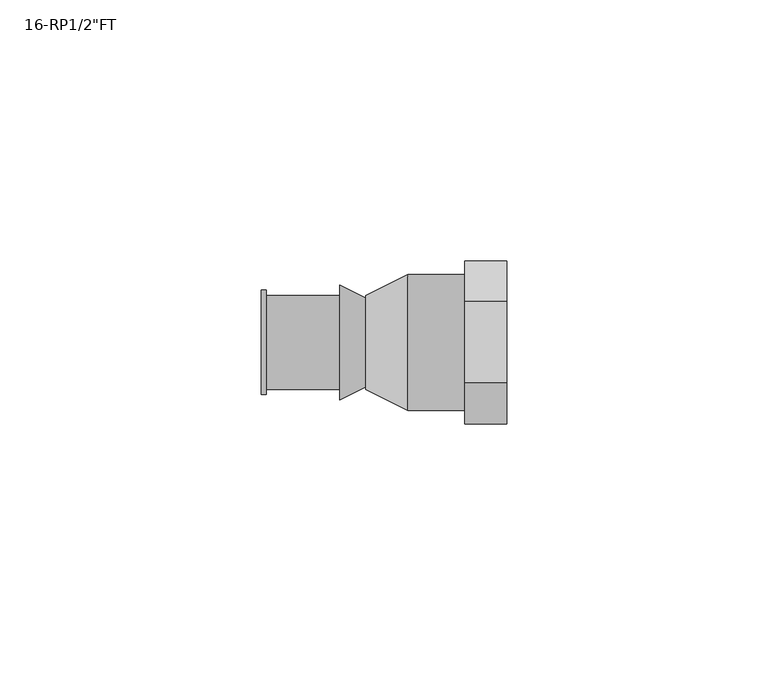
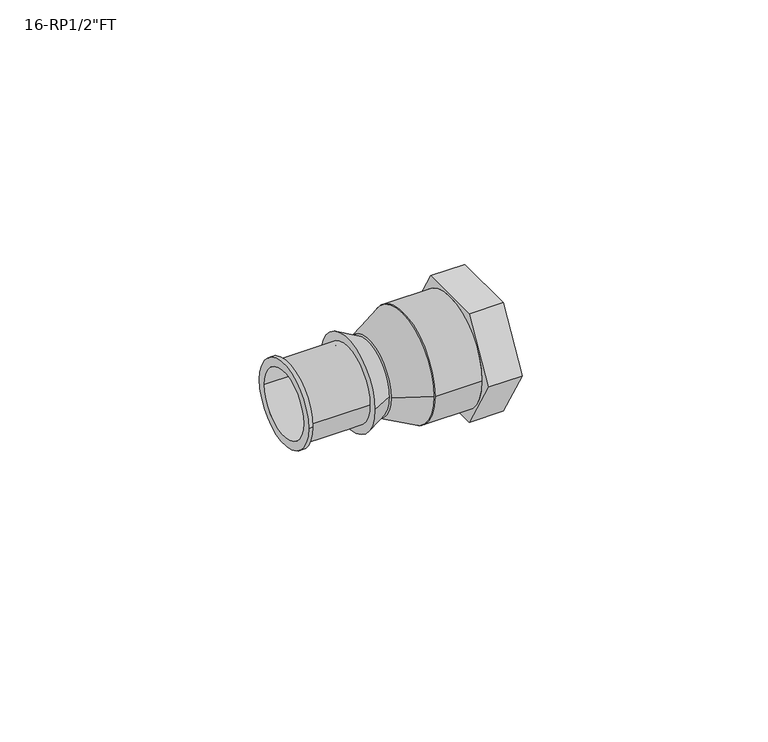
"""IFC4 building model written with IfcOpenShell, lengths in millimetres: pipe fitting geometry."""

import ifcopenshell
import ifcopenshell.guid

model = None  # the IFC model being written
_history = None  # IfcOwnerHistory: only IFC2X3 demands one
_inside = {}  # id of a spatial element -> (the spatial element, [elements in it])
_under = {}  # id of a project, library or spatial element -> (it, [spatial elements below it])
_declared = {}  # id of a project -> (the project, [libraries it declares])
_typed = {}  # id of a type object -> (the type object, [elements of that type])
_made_of = {}  # id of a material, layer set ... -> (it, [elements and type objects made of it])


def new_model(schema):
    """Start an empty IFC model of exactly this schema.

    Asked for "IFC4X3", IfcOpenShell would pick the latest addendum, in which some entities
    have other attributes; the version numbers below select the first issue.
    IFC2X3 requires an IfcOwnerHistory on every rooted entity: one is made here for all.
    """
    global model, _history
    if schema == "IFC4X3":
        model = ifcopenshell.file(schema_version=(4, 3, 0, 0))
    else:
        model = ifcopenshell.file(schema=schema)
    _inside.clear()
    _under.clear()
    _declared.clear()
    _typed.clear()
    _made_of.clear()
    _history = None
    if model.schema == "IFC2X3":
        org = make("IfcOrganization", Name="unknown")
        user = make(
            "IfcPersonAndOrganization",
            ThePerson=make("IfcPerson", FamilyName="unknown"),
            TheOrganization=org,
        )
        app = make(
            "IfcApplication",
            ApplicationDeveloper=org,
            Version="unknown",
            ApplicationFullName="unknown",
            ApplicationIdentifier="unknown",
        )
        _history = make(
            "IfcOwnerHistory",
            OwningUser=user,
            OwningApplication=app,
            ChangeAction="ADDED",
            CreationDate=0,
        )
    return model


def make(cls, **values):
    """One entity of the class cls with the attributes given. An attribute that is None is left unset."""
    return model.create_entity(
        cls, **{name: value for name, value in values.items() if value is not None}
    )


def rooted(cls, **values):
    """An entity with a GlobalId (a new one), such as an element, a storey or a relation."""
    return make(cls, GlobalId=ifcopenshell.guid.new(), OwnerHistory=_history, **values)


def si_unit(unit_type, name, prefix=None):
    """IfcSIUnit, for example si_unit("LENGTHUNIT", "METRE", prefix="MILLI")."""
    return make("IfcSIUnit", UnitType=unit_type, Prefix=prefix, Name=name)


def assignment(units):
    """IfcUnitAssignment: the units of a project."""
    return None if units is None else make("IfcUnitAssignment", Units=units)


def point(xyz):
    """IfcCartesianPoint."""
    return None if xyz is None else make("IfcCartesianPoint", Coordinates=xyz)


def direction(xyz):
    """IfcDirection."""
    return None if xyz is None else make("IfcDirection", DirectionRatios=xyz)


def frame(location, z_axis=None, x_axis=None):
    """IfcAxis2Placement3D, a coordinate frame: its origin and axes. An axis left out is left unset."""
    return make(
        "IfcAxis2Placement3D",
        Location=point(location),
        Axis=direction(z_axis),
        RefDirection=direction(x_axis),
    )


def origin():
    """The frame at (0, 0, 0) with its axes left unset."""
    return frame((0.0, 0.0, 0.0))


def place(relative_to, where):
    """IfcLocalPlacement: puts the frame where relative to a parent placement (None: the world)."""
    return make(
        "IfcLocalPlacement", PlacementRelTo=relative_to, RelativePlacement=where
    )


def context(
    kind, dimensions, precision=None, world=None, true_north=None, identifier=None
):
    """IfcGeometricRepresentationContext, for example the 3D "Model" context."""
    return make(
        "IfcGeometricRepresentationContext",
        ContextIdentifier=identifier,
        ContextType=kind,
        CoordinateSpaceDimension=dimensions,
        Precision=precision,
        WorldCoordinateSystem=world,
        TrueNorth=true_north,
    )


def project(units=None, contexts=None):
    """IfcProject with its units and contexts."""
    return rooted(
        "IfcProject",
        Name="project",
        RepresentationContexts=contexts,
        UnitsInContext=assignment(units),
    )


def spatial(cls, under=None, at=None, **own):
    """A site, building, storey or space (cls), placed at a placement, below another one or the project."""
    s = rooted(cls, ObjectPlacement=at, **own)
    if under is not None:
        _under.setdefault(under.id(), (under, []))[1].append(s)
    return s


def polyline(points):
    """IfcPolyline through the points."""
    return make("IfcPolyline", Points=[point(p) for p in points])


def circle_curve(where, radius):
    """IfcCircle in the frame where."""
    return make("IfcCircle", Position=where, Radius=radius)


def shape(context_of_items, identifier, shape_type, items):
    """IfcShapeRepresentation: the items that make up one representation, for example the "Body"."""
    return make(
        "IfcShapeRepresentation",
        ContextOfItems=context_of_items,
        RepresentationIdentifier=identifier,
        RepresentationType=shape_type,
        Items=items,
    )


def source(mapping_origin, context_of_items, identifier, shape_type, items):
    """IfcRepresentationMap: a shape defined once, which mapped items show again and again."""
    return make(
        "IfcRepresentationMap",
        MappingOrigin=mapping_origin,
        MappedRepresentation=shape(context_of_items, identifier, shape_type, items),
    )


def transform(
    local_origin,
    x_axis=None,
    y_axis=None,
    z_axis=None,
    scale=None,
    scale2=None,
    scale3=None,
    uniform=True,
):
    """IfcCartesianTransformationOperator3D, or its non-uniform kind. x_axis, y_axis, z_axis: its Axis1, 2, 3."""
    if uniform:
        return make(
            "IfcCartesianTransformationOperator3D",
            Axis1=direction(x_axis),
            Axis2=direction(y_axis),
            LocalOrigin=point(local_origin),
            Scale=scale,
            Axis3=direction(z_axis),
        )
    return make(
        "IfcCartesianTransformationOperator3DnonUniform",
        Axis1=direction(x_axis),
        Axis2=direction(y_axis),
        LocalOrigin=point(local_origin),
        Scale=scale,
        Axis3=direction(z_axis),
        Scale2=scale2,
        Scale3=scale3,
    )


def mapped(mapping_source, mapping_target):
    """IfcMappedItem: shows the shape of a source again, moved by a transform."""
    return make(
        "IfcMappedItem", MappingSource=mapping_source, MappingTarget=mapping_target
    )


def made_of(thing, what):
    """Note that an element or type object is made of a material, layer set ...; save() writes the relation."""
    if what is not None:
        _made_of.setdefault(what.id(), (what, []))[1].append(thing)
    return thing


def element(
    cls,
    number,
    at=None,
    inside=None,
    cuts=None,
    type_object=None,
    material=None,
    context=None,
    identifier="Body",
    shape_type=None,
    held_by="IfcProductDefinitionShape",
    body=None,
    shapes=None,
    **own,
):
    """One element of the class cls, such as IfcWall. Its Tag is "e" and its number.

    at: its placement. inside: the storey or other place that contains it. cuts: it is an
    opening in that element (IfcRelVoidsElement). A single representation is given by context,
    identifier, shape_type and body (its items); several are given by shapes. held_by: the class
    of the entity that holds the representations. save() writes the other relations.
    """
    e = rooted(cls, Tag="e%d" % number, ObjectPlacement=at, **own)
    if body is not None:
        shapes = [shape(context, identifier, shape_type, body)]
    if shapes is not None:
        e.Representation = make(held_by, Representations=shapes)
    if inside is not None:
        _inside.setdefault(inside.id(), (inside, []))[1].append(e)
    if cuts is not None:
        rooted(
            "IfcRelVoidsElement", RelatingBuildingElement=cuts, RelatedOpeningElement=e
        )
    if type_object is not None:
        _typed.setdefault(type_object.id(), (type_object, []))[1].append(e)
    return made_of(e, material)


def aggregate(whole, parts):
    """IfcRelAggregates: a whole, such as a stair, and the parts it consists of."""
    return rooted("IfcRelAggregates", RelatingObject=whole, RelatedObjects=parts)


def save(model, path):
    """Write the relations noted so far, then the file.

    IfcRelAggregates (storeys below a building ...), IfcRelContainedInSpatialStructure (elements
    in a storey), IfcRelDefinesByType, IfcRelAssociatesMaterial and IfcRelDeclares: one each for
    every whole, place, type object, material and project.
    """
    for whole, parts in _under.values():
        aggregate(whole, parts)
    for where, things in _inside.values():
        rooted(
            "IfcRelContainedInSpatialStructure",
            RelatedElements=things,
            RelatingStructure=where,
        )
    for kind, things in _typed.values():
        rooted("IfcRelDefinesByType", RelatedObjects=things, RelatingType=kind)
    for what, things in _made_of.values():
        rooted("IfcRelAssociatesMaterial", RelatedObjects=things, RelatingMaterial=what)
    for by, libraries in _declared.values():
        rooted("IfcRelDeclares", RelatingContext=by, RelatedDefinitions=libraries)
    model.write(path)


def plane_surface(at):
    """IfcPlane: the flat surface through the origin of the frame at, square to its z axis."""
    return make("IfcPlane", Position=at)


def cylinder_surface(at, radius):
    """IfcCylindricalSurface: all points at the distance radius from the z axis of the frame at."""
    return make("IfcCylindricalSurface", Position=at, Radius=radius)


def revolved_surface(curve, axis_point, axis_direction):
    """IfcSurfaceOfRevolution: the curve turned about the line through axis_point along axis_direction."""
    return make(
        "IfcSurfaceOfRevolution",
        SweptCurve=make("IfcArbitraryOpenProfileDef", ProfileType="CURVE", Curve=curve),
        AxisPosition=make("IfcAxis1Placement", Location=point(axis_point), Axis=direction(axis_direction)),
    )


def advanced_brep(points, edges, surfaces, faces):
    """IfcAdvancedBrep: a solid bounded by faces that lie on surfaces and meet in shared edges.

    An edge is (start, end): straight between two places in points (the first is 0);
    or (start, end, curve); or (start, end, curve, False) where it runs against its curve.
    A face is (place in surfaces, loops), or (place, loops, False) where it looks against
    its surface's normal. A loop lists edges by number (the first is 1), with a minus sign
    where the edge is run from its end to its start. The first loop is the outer one.
    """
    corners = [point(p) for p in points]
    vertices = [make("IfcVertexPoint", VertexGeometry=c) for c in corners]
    made = []
    for start, end, *more in edges:
        made.append(
            make(
                "IfcEdgeCurve",
                EdgeStart=vertices[start],
                EdgeEnd=vertices[end],
                EdgeGeometry=more[0] if more else make("IfcPolyline", Points=[corners[start], corners[end]]),
                SameSense=more[1] if len(more) > 1 else True,
            )
        )
    hull = []
    for where, loops, *sense in faces:
        bounds = []
        for j, loop in enumerate(loops):
            ring = [make("IfcOrientedEdge", EdgeElement=made[abs(k) - 1], Orientation=k > 0) for k in loop]
            bounds.append(
                make(
                    "IfcFaceOuterBound" if j == 0 else "IfcFaceBound",
                    Bound=make("IfcEdgeLoop", EdgeList=ring),
                    Orientation=True,
                )
            )
        hull.append(make("IfcAdvancedFace", Bounds=bounds, FaceSurface=surfaces[where], SameSense=sense[0] if sense else True))
    return make("IfcAdvancedBrep", Outer=make("IfcClosedShell", CfsFaces=hull))


def pipe_fitting_16d1dc4d(model_context):
    return source(origin(), model_context, "Body", "AdvancedBrep", [
        advanced_brep(
        [(2.0, -13.0, 0.0), (2.0, 13.0, 0.0), (2.0, -9.0, 0.0), (2.0, 9.0, 0.0), (21.0, -15.5884573, 0.0), (21.0, -7.7942286, -13.5), (21.0, 7.7942286, -13.5), (21.0, 15.5884573, 0.0), (21.0, 7.7942286, 13.5), (21.0, -7.7942286, 13.5), (21.0, -9.0, 0.0), (21.0, 9.0, 0.0), (13.0, -13.0, 0.0), (13.0, 13.0, 0.0), (13.0, -9.0, 0.0), (13.0, 9.0, 0.0), (13.0, -15.5884573, 0.0), (13.0, -7.7942286, 13.5), (13.0, 7.7942286, 13.5), (13.0, 15.5884573, 0.0), (13.0, 7.7942286, -13.5), (13.0, -7.7942286, -13.5)],
        [
            (0, 1, circle_curve(frame((2.0, 0.0, 0.0), z_axis=(-1.0, 0.0, 0.0), x_axis=(0.0, 1.0, 0.0)), 13.0)),
            (1, 0, circle_curve(frame((2.0, 0.0, 0.0), z_axis=(-1.0, 0.0, 0.0), x_axis=(0.0, 1.0, 0.0)), 13.0)),
            (2, 3, circle_curve(frame((2.0, 0.0, 0.0), z_axis=(1.0, 0.0, 0.0), x_axis=(0.0, 1.0, 0.0)), 9.0)),
            (3, 2, circle_curve(frame((2.0, 0.0, 0.0), z_axis=(1.0, 0.0, 0.0), x_axis=(0.0, 1.0, 0.0)), 9.0)),
            (4, 5),
            (5, 6),
            (6, 7),
            (7, 8),
            (8, 9),
            (9, 4),
            (10, 11, circle_curve(frame((21.0, 0.0, 0.0), z_axis=(-1.0, 0.0, 0.0), x_axis=(0.0, 1.0, 0.0)), 9.0)),
            (11, 10, circle_curve(frame((21.0, 0.0, 0.0), z_axis=(-1.0, 0.0, 0.0), x_axis=(0.0, 1.0, 0.0)), 9.0)),
            (0, 12),
            (12, 13, circle_curve(frame((13.0, 0.0, 0.0), z_axis=(-1.0, 0.0, 0.0), x_axis=(0.0, 1.0, 0.0)), 13.0)),
            (13, 1),
            (13, 12, circle_curve(frame((13.0, 0.0, 0.0), z_axis=(-1.0, 0.0, 0.0), x_axis=(0.0, 1.0, 0.0)), 13.0)),
            (2, 14),
            (14, 10),
            (11, 15),
            (15, 3),
            (16, 17),
            (17, 18),
            (18, 19),
            (19, 20),
            (20, 21),
            (21, 16),
            (16, 4),
            (9, 17),
            (8, 18),
            (7, 19),
            (6, 20),
            (5, 21),
        ],
        [
            plane_surface(frame((2.0, 0.0, 0.0), z_axis=(-1.0, 0.0, 0.0), x_axis=(0.0, 0.0, 1.0))),
            plane_surface(frame((21.0, 0.0, 0.0), z_axis=(1.0, 0.0, 0.0), x_axis=(0.0, 0.0, 1.0))),
            cylinder_surface(frame((2.0, 0.0, 0.0), z_axis=(-1.0, 0.0, 0.0), x_axis=(0.0, 1.0, 0.0)), 13.0),
            revolved_surface(polyline([(21.0, 9.0, 0.0), (2.0, 9.0, 0.0)]), (2.0, 0.0, 0.0), (1.0, 0.0, 0.0)),
            plane_surface(frame((13.0, 0.0, 0.0), z_axis=(-1.0, 0.0, 0.0), x_axis=(0.0, 0.0, 1.0))),
            plane_surface(frame((13.0, -15.5884573, 0.0), z_axis=(0.0, -0.866025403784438, 0.5000000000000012), x_axis=(1.0, 0.0, 0.0))),
            plane_surface(frame((13.0, -7.7942286, 13.5), z_axis=(0.0, 0.0, 1.0), x_axis=(1.0, 0.0, 0.0))),
            plane_surface(frame((13.0, 7.7942286, 13.5), z_axis=(0.0, 0.8660254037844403, 0.4999999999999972), x_axis=(1.0, 0.0, 0.0))),
            plane_surface(frame((13.0, 15.5884573, 0.0), z_axis=(0.0, 0.8660254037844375, -0.500000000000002), x_axis=(1.0, 0.0, 0.0))),
            plane_surface(frame((13.0, 7.7942286, -13.5), z_axis=(0.0, 0.0, -1.0), x_axis=(1.0, 0.0, 0.0))),
            plane_surface(frame((13.0, -7.7942286, -13.5), z_axis=(0.0, -0.8660254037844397, -0.4999999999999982), x_axis=(1.0, 0.0, 0.0))),
        ],
        [
            (0, [[1, 2], [3, 4]]),
            (1, [[5, 6, 7, 8, 9, 10], [11, 12]]),
            (2, [[-1, 13, 14, 15]]),
            (2, [[-2, -15, 16, -13]]),
            (3, [[-3, 17, 18, -12, 19, 20]]),
            (3, [[-4, -20, -19, -11, -18, -17]]),
            (4, [[21, 22, 23, 24, 25, 26], [-14, -16]]),
            (5, [[-21, 27, -10, 28]]),
            (6, [[-22, -28, -9, 29]]),
            (7, [[-23, -29, -8, 30]]),
            (8, [[-24, -30, -7, 31]]),
            (9, [[-25, -31, -6, 32]]),
            (10, [[-26, -32, -5, -27]]),
        ],
    ),
        advanced_brep(
        [(2.0, -13.0, 0.0), (2.0, 13.0, 0.0), (-6.0, -9.0, 0.0), (-6.0, 9.0, 0.0)],
        [
            (0, 1, circle_curve(frame((2.0, 0.0, 0.0), z_axis=(1.0, 0.0, 0.0), x_axis=(0.0, -1.0, 0.0)), 13.0)),
            (1, 0, circle_curve(frame((2.0, 0.0, 0.0), z_axis=(1.0, 0.0, 0.0), x_axis=(0.0, 1.0, 0.0)), 13.0)),
            (2, 3, circle_curve(frame((-6.0, 0.0, 0.0), z_axis=(-1.0, 0.0, 0.0), x_axis=(0.0, 1.0, 0.0)), 9.0)),
            (3, 2, circle_curve(frame((-6.0, 0.0, 0.0), z_axis=(-1.0, 0.0, 0.0), x_axis=(0.0, -1.0, 0.0)), 9.0)),
            (3, 1),
            (0, 2),
        ],
        [
            plane_surface(frame((2.0, 0.0, 0.0), z_axis=(1.0, 0.0, 0.0), x_axis=(0.0, 0.0, -1.0))),
            plane_surface(frame((-6.0, 0.0, 0.0), z_axis=(-1.0, 0.0, 0.0), x_axis=(0.0, 0.0, -1.0))),
            revolved_surface(polyline([(-6.0, 9.0, 0.0), (2.0, 13.0, 0.0)]), (-24.0, 0.0, 0.0), (1.0, 0.0, 0.0)),
            revolved_surface(polyline([(-6.0, -9.0, 0.0), (2.0, -13.0, 0.0)]), (-24.0, 0.0, 0.0), (1.0, 0.0, 0.0)),
        ],
        [
            (0, [[1, 2]]),
            (1, [[3, 4]]),
            (2, [[-4, 5, -1, 6]]),
            (3, [[-3, -6, -2, -5]]),
        ],
    ),
        advanced_brep(
        [(-26.0, -10.0, 0.0), (-26.0, 10.0, 0.0), (-26.0, -8.0, 0.0), (-26.0, 8.0, 0.0), (-11.0, -9.0, 0.0), (-11.0, 9.0, 0.0), (-11.0, -8.0, 0.0), (-11.0, 8.0, 0.0), (-25.0, 9.0, 0.0), (-25.0, -9.0, 0.0), (-25.0, -10.0, 0.0), (-25.0, 10.0, 0.0)],
        [
            (0, 1, circle_curve(frame((-26.0, 0.0, 0.0), z_axis=(-1.0, 0.0, 0.0), x_axis=(0.0, 1.0, 0.0)), 10.0)),
            (1, 0, circle_curve(frame((-26.0, 0.0, 0.0), z_axis=(-1.0, 0.0, 0.0), x_axis=(0.0, 1.0, 0.0)), 10.0)),
            (2, 3, circle_curve(frame((-26.0, 0.0, 0.0), z_axis=(1.0, 0.0, 0.0), x_axis=(0.0, 1.0, 0.0)), 8.0)),
            (3, 2, circle_curve(frame((-26.0, 0.0, 0.0), z_axis=(1.0, 0.0, 0.0), x_axis=(0.0, 1.0, 0.0)), 8.0)),
            (4, 5, circle_curve(frame((-11.0, 0.0, 0.0), z_axis=(1.0, 0.0, 0.0), x_axis=(0.0, 1.0, 0.0)), 9.0)),
            (5, 4, circle_curve(frame((-11.0, 0.0, 0.0), z_axis=(1.0, 0.0, 0.0), x_axis=(0.0, 1.0, 0.0)), 9.0)),
            (6, 7, circle_curve(frame((-11.0, 0.0, 0.0), z_axis=(-1.0, 0.0, 0.0), x_axis=(0.0, 1.0, 0.0)), 8.0)),
            (7, 6, circle_curve(frame((-11.0, 0.0, 0.0), z_axis=(-1.0, 0.0, 0.0), x_axis=(0.0, 1.0, 0.0)), 8.0)),
            (2, 6),
            (7, 3),
            (5, 8),
            (8, 9, circle_curve(frame((-25.0, 0.0, 0.0), z_axis=(1.0, 0.0, 0.0), x_axis=(0.0, 1.0, 0.0)), 9.0)),
            (9, 4),
            (9, 8, circle_curve(frame((-25.0, 0.0, 0.0), z_axis=(1.0, 0.0, 0.0), x_axis=(0.0, 1.0, 0.0)), 9.0)),
            (10, 11, circle_curve(frame((-25.0, 0.0, 0.0), z_axis=(1.0, 0.0, 0.0), x_axis=(0.0, 1.0, 0.0)), 10.0)),
            (11, 10, circle_curve(frame((-25.0, 0.0, 0.0), z_axis=(1.0, 0.0, 0.0), x_axis=(0.0, 1.0, 0.0)), 10.0)),
            (0, 10),
            (11, 1),
        ],
        [
            plane_surface(frame((-26.0, 0.0, 0.0), z_axis=(-1.0, 0.0, 0.0), x_axis=(0.0, 0.0, 1.0))),
            plane_surface(frame((-11.0, 0.0, 0.0), z_axis=(1.0, 0.0, 0.0), x_axis=(0.0, 0.0, 1.0))),
            revolved_surface(polyline([(-11.0, 8.0, 0.0), (-26.0, 8.0, 0.0)]), (-26.0, 0.0, 0.0), (1.0, 0.0, 0.0)),
            cylinder_surface(frame((-26.0, 0.0, 0.0), z_axis=(-1.0, 0.0, 0.0), x_axis=(0.0, 1.0, 0.0)), 9.0),
            plane_surface(frame((-25.0, 0.0, 0.0), z_axis=(1.0, 0.0, 0.0), x_axis=(0.0, 0.0, 1.0))),
            cylinder_surface(frame((-26.0, 0.0, 0.0), z_axis=(-1.0, 0.0, 0.0), x_axis=(0.0, 1.0, 0.0)), 10.0),
        ],
        [
            (0, [[1, 2], [3, 4]]),
            (1, [[5, 6], [7, 8]]),
            (2, [[-3, 9, -8, 10]]),
            (2, [[-4, -10, -7, -9]]),
            (3, [[-6, 11, 12, 13]]),
            (3, [[-5, -13, 14, -11]]),
            (4, [[15, 16], [-12, -14]]),
            (5, [[-1, 17, -16, 18]]),
            (5, [[-2, -18, -15, -17]]),
        ],
    ),
        advanced_brep(
        [(-6.0, -8.5, 0.0), (-6.0, 8.5, 0.0), (-6.0, 8.0, 0.0), (-6.0, -8.0, 0.0), (-11.0, -11.0, 0.0), (-11.0, 11.0, 0.0), (-11.0, -8.0, 0.0), (-11.0, 8.0, 0.0)],
        [
            (0, 1, circle_curve(frame((-6.0, 0.0, 0.0), z_axis=(1.0, 0.0, 0.0), x_axis=(0.0, -1.0, 0.0)), 8.5)),
            (1, 0, circle_curve(frame((-6.0, 0.0, 0.0), z_axis=(1.0, 0.0, 0.0), x_axis=(0.0, 1.0, 0.0)), 8.5)),
            (2, 3, circle_curve(frame((-6.0, 0.0, 0.0), z_axis=(-1.0, 0.0, 0.0), x_axis=(0.0, 1.0, 0.0)), 8.0)),
            (3, 2, circle_curve(frame((-6.0, 0.0, 0.0), z_axis=(-1.0, 0.0, 0.0), x_axis=(0.0, 1.0, 0.0)), 8.0)),
            (4, 5, circle_curve(frame((-11.0, 0.0, 0.0), z_axis=(-1.0, 0.0, 0.0), x_axis=(0.0, 1.0, 0.0)), 11.0)),
            (5, 4, circle_curve(frame((-11.0, 0.0, 0.0), z_axis=(-1.0, 0.0, 0.0), x_axis=(0.0, -1.0, 0.0)), 11.0)),
            (6, 7, circle_curve(frame((-11.0, 0.0, 0.0), z_axis=(1.0, 0.0, 0.0), x_axis=(0.0, 1.0, 0.0)), 8.0)),
            (7, 6, circle_curve(frame((-11.0, 0.0, 0.0), z_axis=(1.0, 0.0, 0.0), x_axis=(0.0, 1.0, 0.0)), 8.0)),
            (0, 4),
            (5, 1),
            (2, 7),
            (6, 3),
        ],
        [
            plane_surface(frame((-6.0, 0.0, 0.0), z_axis=(1.0, 0.0, 0.0), x_axis=(0.0, 0.0, -1.0))),
            plane_surface(frame((-11.0, 0.0, 0.0), z_axis=(-1.0, 0.0, 0.0), x_axis=(0.0, 0.0, -1.0))),
            revolved_surface(polyline([(-6.0, -8.5, 0.0), (-11.0, -11.0, 0.0)]), (11.0, 0.0, 0.0), (-1.0, 0.0, 0.0)),
            revolved_surface(polyline([(-6.0, 8.5, 0.0), (-11.0, 11.0, 0.0)]), (11.0, 0.0, 0.0), (-1.0, 0.0, 0.0)),
            revolved_surface(polyline([(-6.0, 8.0, 0.0), (-11.0, 8.0, 0.0)]), (-11.0, 0.0, 0.0), (1.0, 0.0, 0.0)),
        ],
        [
            (0, [[1, 2], [3, 4]]),
            (1, [[5, 6], [7, 8]]),
            (2, [[-1, 9, -6, 10]]),
            (3, [[-2, -10, -5, -9]]),
            (4, [[11, -7, 12, -3]]),
            (4, [[-11, -4, -12, -8]]),
        ],
    ),
    ])


if __name__ == "__main__":
    model = new_model("IFC4")
    model_context = context("Model", 3, world=origin())
    ifc_project = project(units=[si_unit("LENGTHUNIT", "METRE", prefix="MILLI")], contexts=[model_context])
    site = spatial("IfcSite", under=ifc_project)
    building = spatial("IfcBuilding", under=site)
    placement = place(None, origin())
    pipe_fitting_shape = pipe_fitting_16d1dc4d(model_context)
    element("IfcPipeFitting", 1, ObjectType="SuperPipe_AdapterFT_MAX_RP : 16-RP1/2\"FT", at=placement, inside=building, context=model_context, shape_type="MappedRepresentation", body=[
        mapped(pipe_fitting_shape, transform((0.0, 0.0, 0.0), x_axis=(1.0, 0.0, 0.0), y_axis=(0.0, 1.0, 0.0), z_axis=(0.0, 0.0, 1.0))),
    ])
    save(model, "model.ifc")
